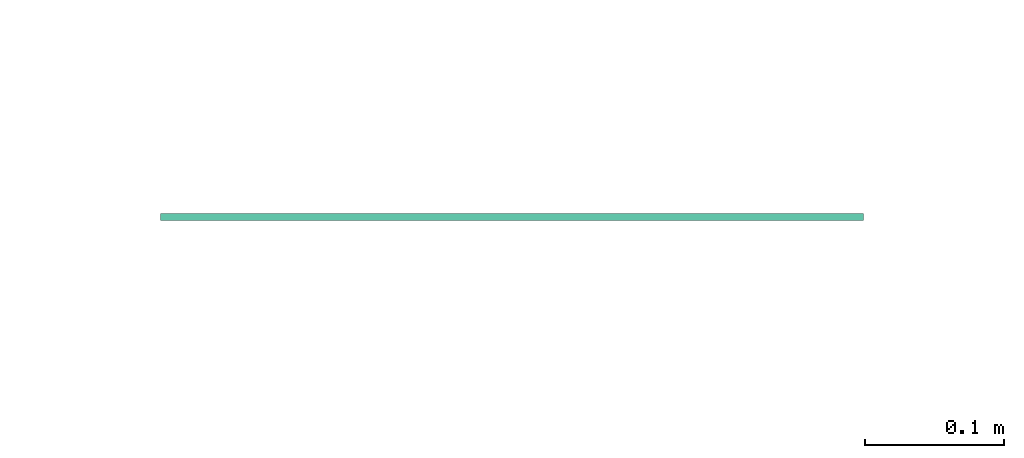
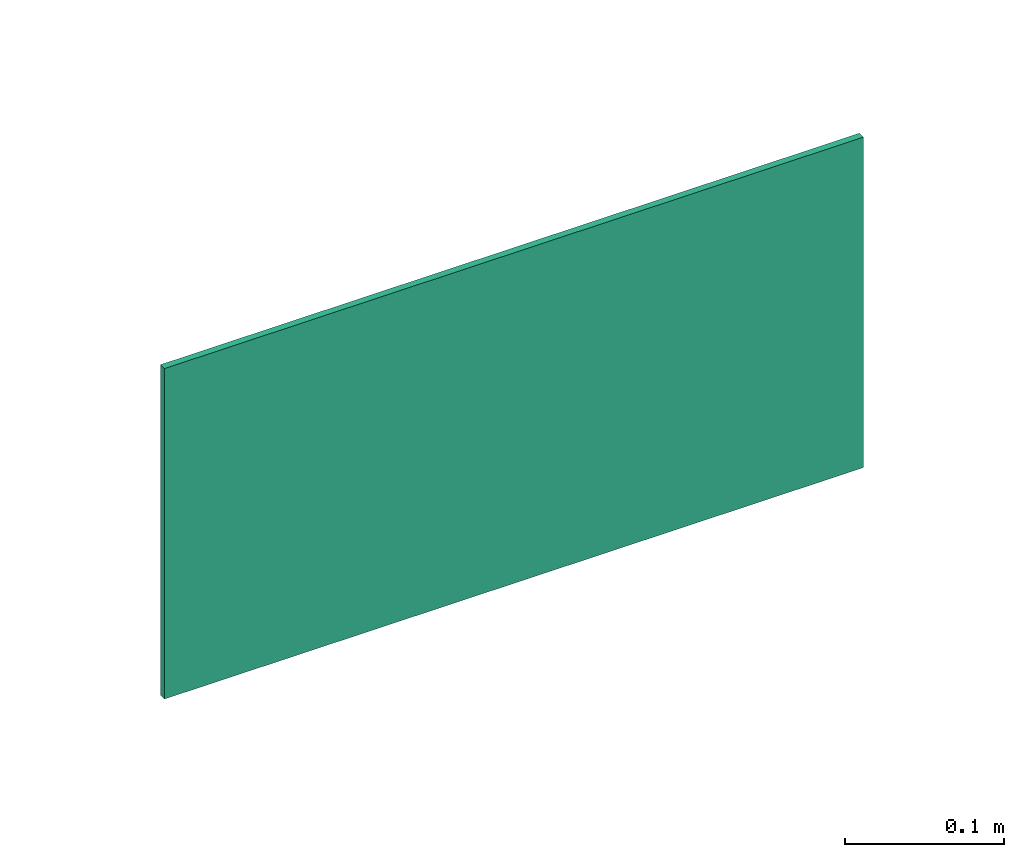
# One storey, part 2 of 9: 1 flow terminal.
"""IFC2X3 building model written with IfcOpenShell, lengths in metres."""

from ifc_helpers import new_model, entity, si_unit, converted_unit, derived_unit, direction, frame, frame_2d, origin, place, context, subcontext, project, spatial, polyline, circle_curve, parameter, trimmed, segment, composite_curve, circle, outline, extrude, source, transform, mapped, material, material_list, type_object, type_shapes, element, save


model = new_model("IFC2X3")

# Units and contexts
model_context = context("Model", 3, precision=1e-05, world=origin(), true_north=direction((6.12303176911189e-17, 1.0)))
body_context = subcontext(model_context, "Body", "Model", "MODEL_VIEW")
ifc_project = project(units=[si_unit("LENGTHUNIT", "METRE"), si_unit("AREAUNIT", "SQUARE_METRE"), si_unit("VOLUMEUNIT", "CUBIC_METRE"), converted_unit("PLANEANGLEUNIT", "DEGREE", entity("IfcRatioMeasure", 0.0174532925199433), si_unit("PLANEANGLEUNIT", "RADIAN"), dimensions=[0, 0, 0, 0, 0, 0, 0]), si_unit("MASSUNIT", "GRAM", prefix="KILO"), derived_unit("MASSDENSITYUNIT", [(si_unit("MASSUNIT", "GRAM", prefix="KILO"), 1), (si_unit("LENGTHUNIT", "METRE"), -3)]), derived_unit("MOMENTOFINERTIAUNIT", [(si_unit("LENGTHUNIT", "METRE"), 4)]), si_unit("TIMEUNIT", "SECOND"), si_unit("FREQUENCYUNIT", "HERTZ"), si_unit("THERMODYNAMICTEMPERATUREUNIT", "DEGREE_CELSIUS"), derived_unit("THERMALTRANSMITTANCEUNIT", [(si_unit("MASSUNIT", "GRAM", prefix="KILO"), 1), (si_unit("THERMODYNAMICTEMPERATUREUNIT", "KELVIN"), -1), (si_unit("TIMEUNIT", "SECOND"), -3)]), derived_unit("VOLUMETRICFLOWRATEUNIT", [(si_unit("LENGTHUNIT", "METRE"), 3), (si_unit("TIMEUNIT", "SECOND"), -1)]), si_unit("ELECTRICCURRENTUNIT", "AMPERE"), si_unit("ELECTRICVOLTAGEUNIT", "VOLT"), si_unit("POWERUNIT", "WATT"), si_unit("FORCEUNIT", "NEWTON", prefix="KILO"), si_unit("ILLUMINANCEUNIT", "LUX"), si_unit("LUMINOUSFLUXUNIT", "LUMEN"), si_unit("LUMINOUSINTENSITYUNIT", "CANDELA"), derived_unit("USERDEFINED", [(si_unit("MASSUNIT", "GRAM", prefix="KILO"), -1), (si_unit("LENGTHUNIT", "METRE"), -2), (si_unit("TIMEUNIT", "SECOND"), 3), (si_unit("LUMINOUSFLUXUNIT", "LUMEN"), 1)]), derived_unit("LINEARVELOCITYUNIT", [(si_unit("LENGTHUNIT", "METRE"), 1), (si_unit("TIMEUNIT", "SECOND"), -1)]), si_unit("PRESSUREUNIT", "PASCAL"), derived_unit("USERDEFINED", [(si_unit("LENGTHUNIT", "METRE"), -2), (si_unit("MASSUNIT", "GRAM", prefix="KILO"), 1), (si_unit("TIMEUNIT", "SECOND"), -2)]), derived_unit("LINEARFORCEUNIT", [(si_unit("MASSUNIT", "GRAM", prefix="KILO"), 1), (si_unit("LENGTHUNIT", "METRE"), 1), (si_unit("TIMEUNIT", "SECOND"), -2), (si_unit("LENGTHUNIT", "METRE"), -1)]), derived_unit("PLANARFORCEUNIT", [(si_unit("MASSUNIT", "GRAM", prefix="KILO"), 1), (si_unit("LENGTHUNIT", "METRE"), 1), (si_unit("TIMEUNIT", "SECOND"), -2), (si_unit("LENGTHUNIT", "METRE"), -2)])], contexts=[model_context])

# Site, building, storey
site_placement = place(None, origin())
site = spatial("IfcSite", under=ifc_project, at=site_placement, Name="Default", CompositionType="ELEMENT")
building_placement = place(site_placement, origin())
building = spatial("IfcBuilding", under=site, at=building_placement, Name="C.L. MONSENHOR ANTÔNIO SAMPAIO", CompositionType="ELEMENT")
storey_placement = place(building_placement, origin())
storey = spatial("IfcBuildingStorey", under=building, at=storey_placement, Name="TÉRREO", CompositionType="ELEMENT", Elevation=0.0)

# Flow terminal
ifc_material_1 = material(Name="Branco")
ifc_material_2 = material(Name="VERDE")
ifc_material_list = material_list([ifc_material_1, ifc_material_2])
distribution_element_type = type_object("IfcDistributionElementType", Name="S2:10 metros", material=ifc_material_1)
shared_shape = source(origin(), body_context, "Body", "SweptSolid", [
    extrude(outline(polyline([(-0.12748118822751, 0.0610696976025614), (-0.12748118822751, -0.0766837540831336), (-0.0524811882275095, -0.0766837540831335), (-0.0524811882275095, -0.0586375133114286), (-0.0754210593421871, -0.0425748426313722), (-0.0838734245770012, -0.0244486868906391), (-0.0838734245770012, 0.0305513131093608), (-0.0465667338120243, 0.0557149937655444), (-0.0359601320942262, 0.0451083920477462), (-0.0649764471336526, 0.02553664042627), (-0.0649764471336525, 0.00553664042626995), (-0.0287241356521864, 0.022441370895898), (0.0135955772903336, 0.0261438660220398), (0.0155685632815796, 0.0637906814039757), (0.0343450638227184, 0.0825671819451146), (0.0366135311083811, 0.0176067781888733), (0.0260069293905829, 0.00700017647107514), (-0.00370111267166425, 0.00282498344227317), (-0.00109649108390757, -0.00276064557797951), (0.0690217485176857, -0.0369595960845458), (0.0690217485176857, -0.0633954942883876), (-0.0208576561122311, -0.0195583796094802), (-0.0294894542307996, -0.0195583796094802), (-0.0512605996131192, -0.0348026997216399), (-0.029319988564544, -0.0552626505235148), (-0.029319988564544, -0.0766837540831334), (0.070680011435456, -0.0766837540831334), (0.084822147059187, -0.0625416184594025), (0.0848221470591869, -0.0462279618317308), (0.0717118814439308, -0.0572287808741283), (0.0717118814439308, -0.0310842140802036), (0.0848221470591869, -0.0179739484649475), (0.0848221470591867, 0.0744479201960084), (0.0714395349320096, 0.0595850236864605), (0.0393589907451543, 0.0595850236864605), (0.0393589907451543, 0.0895850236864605), (0.0340999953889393, 0.0895850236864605), (0.00751881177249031, 0.0610696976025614), (-0.12748118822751, 0.0610696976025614)]), holes=[composite_curve([segment(trimmed(circle_curve(frame_2d((-0.103271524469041, -0.0324099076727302), x_axis=(0.0, -1.0)), 0.0177066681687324), [parameter(6.61555373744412e-13)], [parameter(180.0)], True, "PARAMETER"), False, "CONTINUOUS"), segment(trimmed(circle_curve(frame_2d((-0.103271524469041, -0.0324099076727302), x_axis=(0.0, -1.0)), 0.0177066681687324), [parameter(180.0)], [parameter(0.0)], True, "PARAMETER"), False, "CONTINUOUS")], self_intersect=False)]), frame((0.135804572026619, -0.005, 0.100036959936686), z_axis=(0.0, -1.0, 0.0), x_axis=(0.0, 0.0, -1.0)), (0.0, 0.0, -1.0), 0.005),
    extrude(outline(polyline([(-0.0156689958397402, -0.0893393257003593), (0.0156689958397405, -0.0893393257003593), (0.0156689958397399, 0.0256606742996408), (0.0545598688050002, -0.0132301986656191), (0.0545598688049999, 0.0317698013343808), (0.0, 0.0902780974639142), (-0.0545598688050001, 0.0317698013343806), (-0.0545598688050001, -0.0132301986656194), (-0.01566899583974, 0.0256606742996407), (-0.0156689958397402, -0.0893393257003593)])), frame((-0.12865825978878, -0.005, 0.12724469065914), z_axis=(0.0, 1.0, 0.0), x_axis=(0.0, 0.0, -1.0)), (0.0, 0.0, 1.0), 0.005),
    extrude(outline(polyline([(-0.126499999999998, -0.253), (0.1265, -0.253), (0.126499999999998, 0.253), (-0.1265, 0.252999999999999), (-0.126499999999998, -0.253)]), holes=[polyline([(0.0164136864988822, -0.154318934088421), (0.0553045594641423, -0.11542806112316), (0.0553045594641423, -0.16042806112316), (0.000744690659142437, -0.218936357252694), (-0.0538151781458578, -0.160428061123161), (-0.0538151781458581, -0.115428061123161), (-0.0149243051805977, -0.154318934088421), (-0.0149243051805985, -0.0393189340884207), (0.0164136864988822, -0.0393189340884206), (0.0164136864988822, -0.154318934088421)]), polyline([(0.101018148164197, 0.19687426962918), (0.101018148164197, 0.0591208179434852), (0.0260181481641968, 0.0591208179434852), (0.0260181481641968, 0.0771670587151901), (0.0489580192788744, 0.0932297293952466), (0.0574103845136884, 0.11135588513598), (0.0574103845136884, 0.16635588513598), (0.0201036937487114, 0.191519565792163), (0.00949709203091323, 0.180912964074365), (0.0385134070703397, 0.161341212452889), (0.0385134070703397, 0.141341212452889), (0.00226109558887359, 0.158245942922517), (-0.0400586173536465, 0.161948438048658), (-0.0420316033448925, 0.199595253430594), (-0.0608081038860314, 0.218371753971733), (-0.063076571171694, 0.153411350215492), (-0.0524699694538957, 0.142804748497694), (-0.0227619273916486, 0.138629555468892), (-0.0253665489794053, 0.133043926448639), (-0.0954847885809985, 0.0988449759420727), (-0.0954847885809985, 0.0724090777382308), (-0.00560538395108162, 0.116246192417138), (0.0030264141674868, 0.116246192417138), (0.0247975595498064, 0.101001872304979), (0.00285694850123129, 0.0805419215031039), (0.00285694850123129, 0.0591208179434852), (-0.0971430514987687, 0.059120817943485), (-0.1112851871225, 0.0732629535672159), (-0.1112851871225, 0.0895766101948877), (-0.0981749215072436, 0.0785757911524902), (-0.0981749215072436, 0.104720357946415), (-0.1112851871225, 0.117830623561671), (-0.1112851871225, 0.210252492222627), (-0.0979025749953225, 0.195389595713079), (-0.0658220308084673, 0.195389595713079), (-0.0658220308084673, 0.225389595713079), (-0.0605630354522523, 0.225389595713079), (-0.0339818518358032, 0.19687426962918), (0.101018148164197, 0.19687426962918)])]), frame((0.0, -0.005, 0.126499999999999), z_axis=(0.0, 1.0, 0.0), x_axis=(0.0, 0.0, 1.0)), (0.0, 0.0, 1.0), 0.005),
    extrude(circle(Radius=0.0177066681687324, at=frame_2d((0.0, -1.01518793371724e-16), x_axis=(1.0, 0.0))), frame((0.103394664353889, -0.005, 0.203308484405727), z_axis=(0.0, 1.0, 0.0), x_axis=(-1.0, 0.0, 0.0)), (0.0, 0.0, 1.0), 0.005),
])
type_shapes(distribution_element_type, [shared_shape])
flow_terminal_placement = place(building_placement, frame((-3.99055229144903, -35.3830663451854, 0.0), z_axis=(0.0, 0.0, 1.0), x_axis=(-1.0, 0.0, 0.0)))
element("IfcFlowTerminal", 1, at=flow_terminal_placement, inside=storey, type_object=distribution_element_type, material=ifc_material_list, Name="S2:10 metros", ObjectType="S2:10 metros", context=body_context, shape_type="MappedRepresentation", body=[
    mapped(shared_shape, transform((0.0, 0.0, 0.0), scale=1.0)),
])

save(model, "model.ifc")
